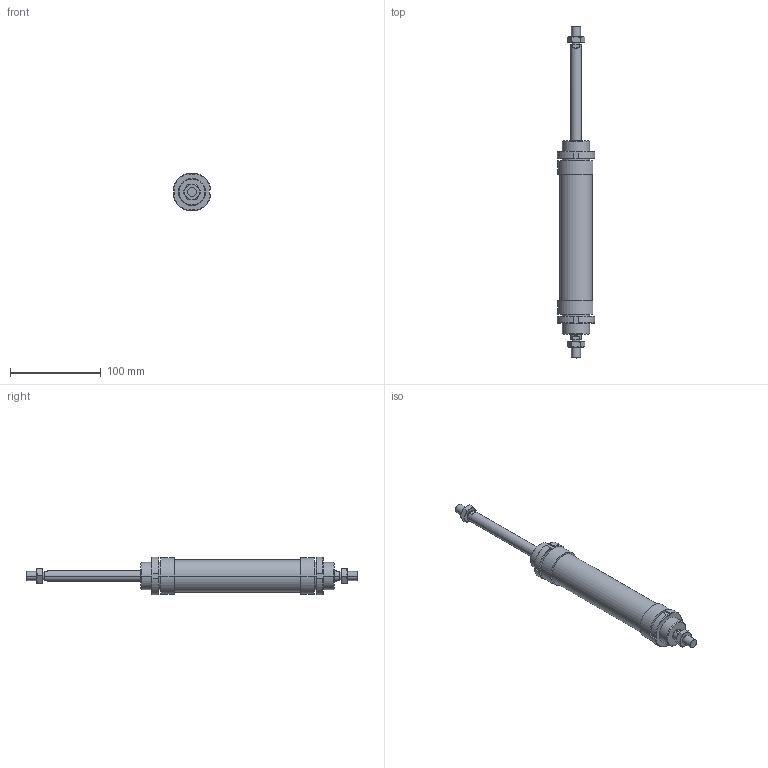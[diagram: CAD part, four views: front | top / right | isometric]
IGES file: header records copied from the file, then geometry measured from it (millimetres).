
Global section: file name: No Iges File Name specified; native system: AutoDesk Inventor R6.0; preprocessor: AutoDesk Inventor Iges Exporter R6.0; author: No Author specified; organization: No Organization specified; date: 20030403.072637; units: millimetre
Bounding box: 41.7 x 365 x 41.7 mm (x, y, z)
Volume: 237695.9 mm3; surface area: 56568.7 mm2
Topology: 6 solids, 6 shells, 182 faces, 424 edges, 264 vertices
Faces by surface type: plane 66, cone 52, bspline 30, cylinder 28, revolution 6
